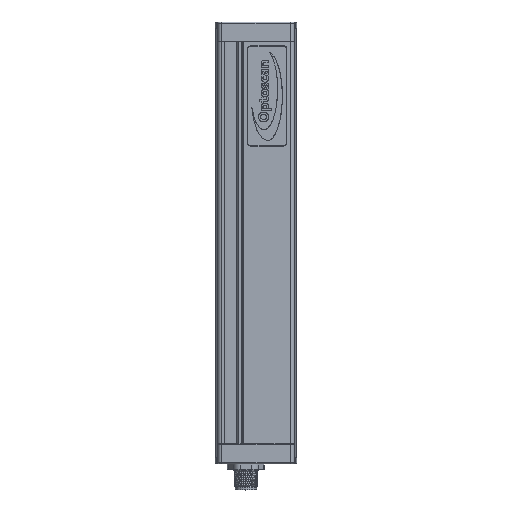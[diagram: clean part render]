
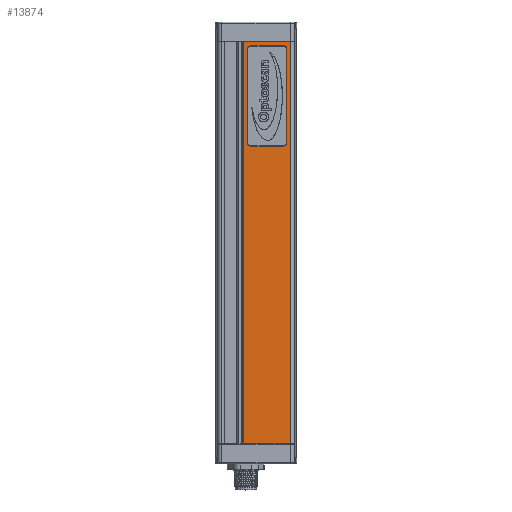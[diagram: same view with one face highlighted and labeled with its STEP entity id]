
A CAD part, top view. The second image highlights one B-rep face of the part: STEP entity #13874.
In plain terms, the highlighted planar face has unit normal (0, 0, 1).
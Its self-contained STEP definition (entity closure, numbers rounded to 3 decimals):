
#178=FACE_BOUND('',#2285,.T.);
#461=CIRCLE('',#14585,1.45);
#467=CIRCLE('',#14593,1.45);
#471=CIRCLE('',#14599,1.45);
#475=CIRCLE('',#14605,1.45);
#1052=PLANE('',#14718);
#1510=FACE_OUTER_BOUND('',#2284,.T.);
#2284=EDGE_LOOP('',(#9922,#9923,#9924,#9925));
#2285=EDGE_LOOP('',(#9926,#9927,#9928,#9929,#9930,#9931,#9932,#9933));
#3345=LINE('',#20295,#4416);
#3347=LINE('',#20307,#4418);
#3349=LINE('',#20319,#4420);
#3351=LINE('',#20328,#4422);
#3562=LINE('',#22495,#4633);
#3563=LINE('',#22497,#4634);
#3564=LINE('',#22499,#4635);
#3565=LINE('',#22500,#4636);
#4416=VECTOR('',#16169,10.);
#4418=VECTOR('',#16183,10.);
#4420=VECTOR('',#16197,10.);
#4422=VECTOR('',#16209,10.);
#4633=VECTOR('',#16644,10.);
#4634=VECTOR('',#16645,10.);
#4635=VECTOR('',#16646,10.);
#4636=VECTOR('',#16647,10.);
#5576=VERTEX_POINT('',#20283);
#5577=VERTEX_POINT('',#20285);
#5579=VERTEX_POINT('',#20291);
#5581=VERTEX_POINT('',#20297);
#5583=VERTEX_POINT('',#20303);
#5585=VERTEX_POINT('',#20309);
#5587=VERTEX_POINT('',#20315);
#5589=VERTEX_POINT('',#20321);
#5831=VERTEX_POINT('',#22493);
#5832=VERTEX_POINT('',#22494);
#5833=VERTEX_POINT('',#22496);
#5834=VERTEX_POINT('',#22498);
#6939=EDGE_CURVE('',#5576,#5577,#461,.T.);
#6944=EDGE_CURVE('',#5577,#5579,#3345,.T.);
#6947=EDGE_CURVE('',#5579,#5581,#467,.T.);
#6950=EDGE_CURVE('',#5581,#5583,#3347,.T.);
#6953=EDGE_CURVE('',#5583,#5585,#471,.T.);
#6956=EDGE_CURVE('',#5585,#5587,#3349,.T.);
#6959=EDGE_CURVE('',#5587,#5589,#475,.T.);
#6961=EDGE_CURVE('',#5589,#5576,#3351,.T.);
#7330=EDGE_CURVE('',#5831,#5832,#3562,.T.);
#7331=EDGE_CURVE('',#5832,#5833,#3563,.T.);
#7332=EDGE_CURVE('',#5834,#5833,#3564,.T.);
#7333=EDGE_CURVE('',#5831,#5834,#3565,.T.);
#9922=ORIENTED_EDGE('',*,*,#7330,.T.);
#9923=ORIENTED_EDGE('',*,*,#7331,.T.);
#9924=ORIENTED_EDGE('',*,*,#7332,.F.);
#9925=ORIENTED_EDGE('',*,*,#7333,.F.);
#9926=ORIENTED_EDGE('',*,*,#6939,.F.);
#9927=ORIENTED_EDGE('',*,*,#6961,.F.);
#9928=ORIENTED_EDGE('',*,*,#6959,.F.);
#9929=ORIENTED_EDGE('',*,*,#6956,.F.);
#9930=ORIENTED_EDGE('',*,*,#6953,.F.);
#9931=ORIENTED_EDGE('',*,*,#6950,.F.);
#9932=ORIENTED_EDGE('',*,*,#6947,.F.);
#9933=ORIENTED_EDGE('',*,*,#6944,.F.);
#13874=ADVANCED_FACE('',(#1510,#178),#1052,.T.);
#14585=AXIS2_PLACEMENT_3D('',#20286,#16158,#16159);
#14593=AXIS2_PLACEMENT_3D('',#20301,#16176,#16177);
#14599=AXIS2_PLACEMENT_3D('',#20313,#16190,#16191);
#14605=AXIS2_PLACEMENT_3D('',#20325,#16204,#16205);
#14718=AXIS2_PLACEMENT_3D('',#22492,#16642,#16643);
#16158=DIRECTION('center_axis',(0.,0.,
1.));
#16159=DIRECTION('ref_axis',(1.,0.,0.));
#16169=DIRECTION('',(1.,0.,0.));
#16176=DIRECTION('center_axis',(0.,0.,
1.));
#16177=DIRECTION('ref_axis',(1.,0.,0.));
#16183=DIRECTION('',(0.,1.,0.));
#16190=DIRECTION('center_axis',(0.,0.,
1.));
#16191=DIRECTION('ref_axis',(1.,0.,0.));
#16197=DIRECTION('',(-1.,0.,0.));
#16204=DIRECTION('center_axis',(0.,0.,
1.));
#16205=DIRECTION('ref_axis',(1.,0.,0.));
#16209=DIRECTION('',(0.,-1.,0.));
#16642=DIRECTION('center_axis',(0.,0.,
1.));
#16643=DIRECTION('ref_axis',(1.,0.,0.));
#16644=DIRECTION('',(1.,0.,0.));
#16645=DIRECTION('',(0.,1.,0.));
#16646=DIRECTION('',(1.,0.,0.));
#16647=DIRECTION('',(0.,1.,0.));
#20283=CARTESIAN_POINT('',(-42.765,149.7,28.879));
#20285=CARTESIAN_POINT('',(-41.315,148.25,28.879));
#20286=CARTESIAN_POINT('Origin',(-41.315,149.7,28.879));
#20291=CARTESIAN_POINT('',(-24.915,148.25,28.879));
#20295=CARTESIAN_POINT('',(-37.215,148.25,28.879));
#20297=CARTESIAN_POINT('',(-23.465,149.7,28.879));
#20301=CARTESIAN_POINT('Origin',(-24.915,149.7,28.879));
#20303=CARTESIAN_POINT('',(-23.465,196.5,28.879));
#20307=CARTESIAN_POINT('',(-23.465,161.4,28.879));
#20309=CARTESIAN_POINT('',(-24.915,197.95,28.879));
#20313=CARTESIAN_POINT('Origin',(-24.915,196.5,28.879));
#20315=CARTESIAN_POINT('',(-41.315,197.95,28.879));
#20319=CARTESIAN_POINT('',(-29.015,197.95,28.879));
#20321=CARTESIAN_POINT('',(-42.765,196.5,28.879));
#20325=CARTESIAN_POINT('Origin',(-41.315,196.5,28.879));
#20328=CARTESIAN_POINT('',(-42.765,184.8,28.879));
#22492=CARTESIAN_POINT('Origin',(-44.965,0.,
28.879));
#22493=CARTESIAN_POINT('',(-44.965,0.,28.879));
#22494=CARTESIAN_POINT('',(-21.664,0.,28.879));
#22495=CARTESIAN_POINT('',(-44.965,0.,28.879));
#22496=CARTESIAN_POINT('',(-21.664,200.,28.879));
#22497=CARTESIAN_POINT('',(-21.664,0.,28.879));
#22498=CARTESIAN_POINT('',(-44.965,200.,28.879));
#22499=CARTESIAN_POINT('',(-44.965,200.,28.879));
#22500=CARTESIAN_POINT('',(-44.965,0.,28.879));
